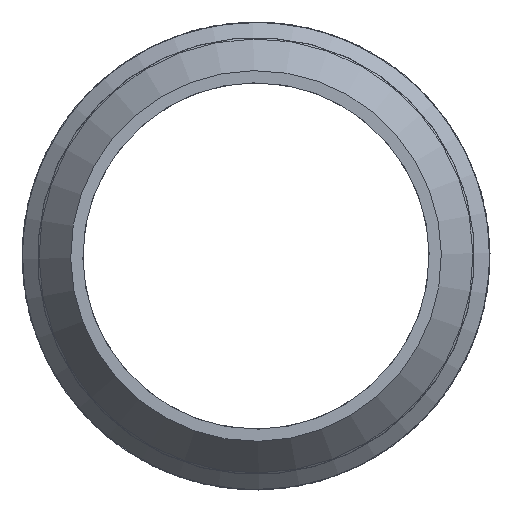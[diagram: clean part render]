
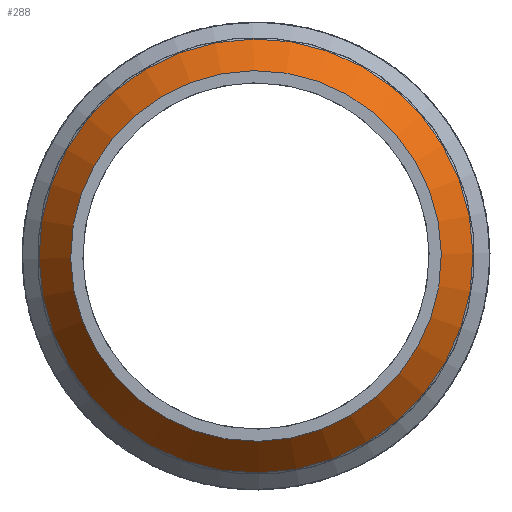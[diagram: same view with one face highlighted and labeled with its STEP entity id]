
A CAD part, front view. The second image highlights one B-rep face of the part: STEP entity #288.
In plain terms, the highlighted conical face has half-angle 37.5 degrees and reference radius 15.482 mm.
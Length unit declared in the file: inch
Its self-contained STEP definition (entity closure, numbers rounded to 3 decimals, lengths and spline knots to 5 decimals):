
#39=FACE_BOUND('',#89,.T.);
#63=FACE_OUTER_BOUND('',#88,.T.);
#88=EDGE_LOOP('',(#208));
#89=EDGE_LOOP('',(#209));
#136=CIRCLE('',#321,0.6575);
#137=CIRCLE('',#322,0.56158);
#160=VERTEX_POINT('',#470);
#161=VERTEX_POINT('',#472);
#184=EDGE_CURVE('',#160,#160,#136,.T.);
#185=EDGE_CURVE('',#161,#161,#137,.T.);
#208=ORIENTED_EDGE('',*,*,#184,.T.);
#209=ORIENTED_EDGE('',*,*,#185,.T.);
#255=CONICAL_SURFACE('',#320,0.60954,37.5);
#288=ADVANCED_FACE('',(#63,#39),#255,.T.);
#320=AXIS2_PLACEMENT_3D('',#469,#373,#374);
#321=AXIS2_PLACEMENT_3D('',#471,#375,#376);
#322=AXIS2_PLACEMENT_3D('',#473,#377,#378);
#373=DIRECTION('center_axis',(0.,1.,0.));
#374=DIRECTION('ref_axis',(-0.186,0.,0.983));
#375=DIRECTION('center_axis',(0.,-1.,0.));
#376=DIRECTION('ref_axis',(-0.186,0.,0.983));
#377=DIRECTION('center_axis',(0.,1.,0.));
#378=DIRECTION('ref_axis',(-0.186,0.,0.983));
#469=CARTESIAN_POINT('Origin',(0.,0.0625,
0.));
#470=CARTESIAN_POINT('',(0.12197,0.125,-0.64609));
#471=CARTESIAN_POINT('Origin',(0.,0.125,0.));
#472=CARTESIAN_POINT('',(0.10418,0.,-0.55184));
#473=CARTESIAN_POINT('Origin',(0.,0.,
0.));
